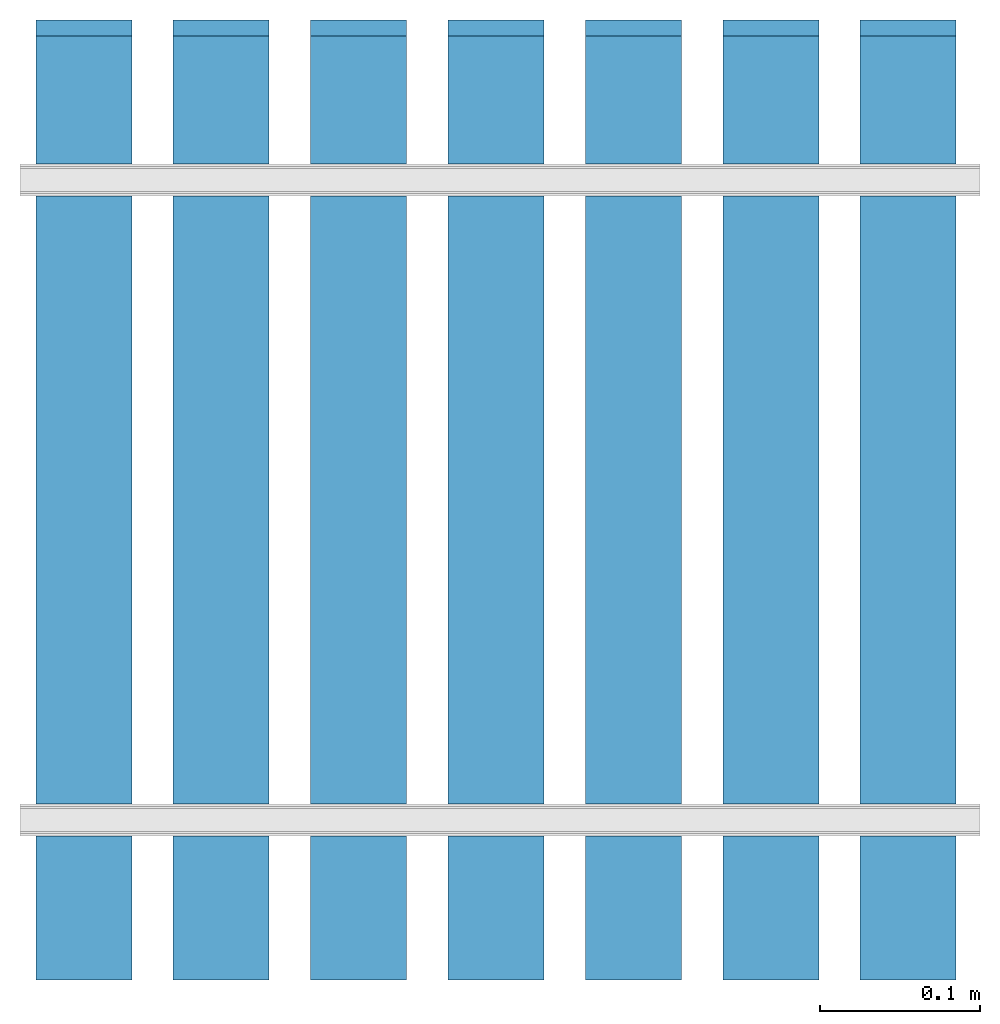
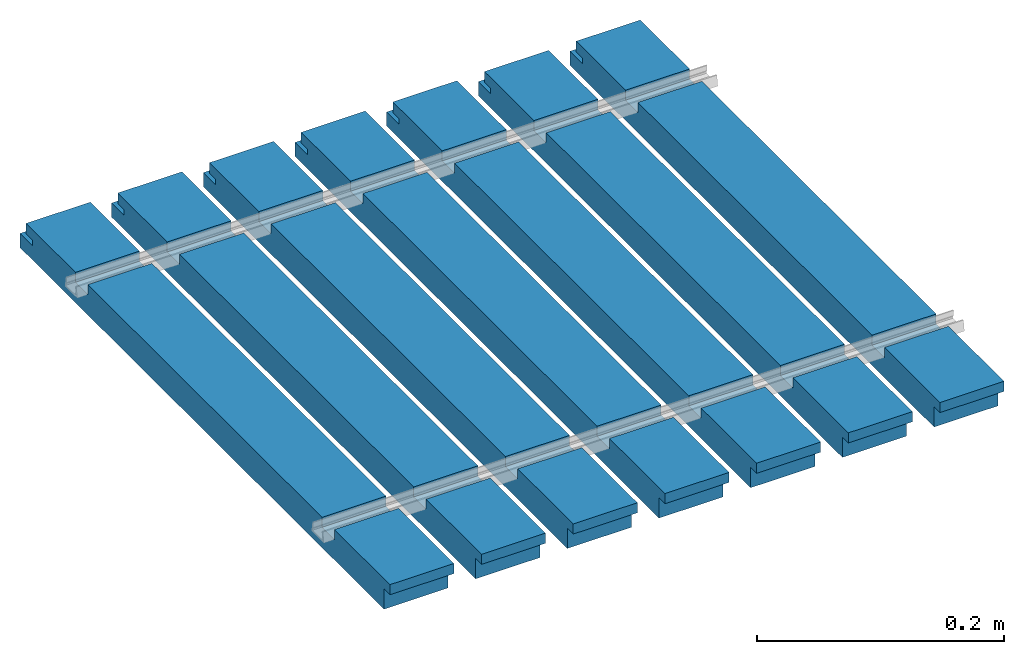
# One storey, part 2 of 2: 7 walls.
"""IFC2X3 building model written with IfcOpenShell, lengths in millimetres."""

from ifc_helpers import new_model, entity, si_unit, converted_unit, money_unit, direction, frame, origin_with_axes, place, context, subcontext, project, spatial, polyline, outline, extrude, boolean, faceted_brep, material, layer, layer_set, layer_usage, type_object, element, save


model = new_model("IFC2X3")

# Units and contexts
model_context = context("Model", 3, precision=1e-05, world=origin_with_axes(), true_north=direction((0.0, 1.0)))
body_context = subcontext(model_context, "Body", "Model", "MODEL_VIEW")
ifc_project = project(units=[si_unit("LENGTHUNIT", "METRE", prefix="MILLI"), si_unit("AREAUNIT", "SQUARE_METRE"), si_unit("VOLUMEUNIT", "CUBIC_METRE"), converted_unit("PLANEANGLEUNIT", "DEGREE", entity("IfcPlaneAngleMeasure", 0.0174532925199), si_unit("PLANEANGLEUNIT", "RADIAN"), dimensions=[0, 0, 0, 0, 0, 0, 0]), si_unit("SOLIDANGLEUNIT", "STERADIAN"), money_unit("AUD"), si_unit("TIMEUNIT", "SECOND"), si_unit("MASSUNIT", "GRAM"), si_unit("THERMODYNAMICTEMPERATUREUNIT", "DEGREE_CELSIUS"), si_unit("LUMINOUSINTENSITYUNIT", "LUMEN")], contexts=[model_context])

# Site, building, storey
site_placement = place(None, origin_with_axes())
site = spatial("IfcSite", under=ifc_project, at=site_placement, Name="Site", CompositionType="ELEMENT")
building_placement = place(site_placement, origin_with_axes())
building = spatial("IfcBuilding", under=site, at=building_placement, Name="Building", CompositionType="ELEMENT")
storey_placement = place(building_placement, origin_with_axes())
storey = spatial("IfcBuildingStorey", under=building, at=storey_placement, Name="GROUND", CompositionType="ELEMENT", Elevation=0.0)

# Walls
ifc_material = material(Name="Timber")
ifc_layer = layer(ifc_material, 60.0, ventilated="UNKNOWN")
ifc_layer_set = layer_set([ifc_layer], Name="Timber 60")
ifc_layer_usage_1 = layer_usage(ifc_layer_set, "AXIS2", "POSITIVE", 0.0)
wall_type = type_object("IfcWallType", Name="Timber 60", PredefinedType="NOTDEFINED")
wall_1_placement = place(storey_placement, frame((72.41, 0.0, 0.0), z_axis=(0.0, 0.0, 1.0), x_axis=(0.0, 1.0, 0.0)))
element("IfcWallStandardCase", 1, at=wall_1_placement, inside=storey, type_object=wall_type, material=ifc_layer_usage_1, Name="WALL-01", context=body_context, shape_type="CSG", body=[
    boolean("DIFFERENCE", boolean("DIFFERENCE", boolean("DIFFERENCE", boolean("DIFFERENCE", extrude(outline(polyline([(0.0, 0.0), (600.0, 0.0), (600.0, 60.0), (0.0, 60.0), (0.0, 0.0)])), origin_with_axes(), (0.0, 0.0, 1.0), 30.0), faceted_brep([(9.5, 0.0, 20.0), (0.0, 0.0, 20.0), (0.0, 0.0, 0.0), (9.5, 0.0, 0.0), (9.5, 60.0, 20.0), (0.0, 60.0, 20.0), (0.0, 60.0, 0.0), (9.5, 60.0, 0.0)], [[[0, 1, 2, 3]], [[1, 0, 4, 5]], [[1, 5, 6, 2]], [[7, 3, 2, 6]], [[0, 3, 7, 4]], [[4, 7, 6, 5]]])), faceted_brep([(90.0, 0.0, 20.0), (110.0, 0.0, 20.0), (110.0, 0.0, 30.0), (90.0, 0.0, 30.0), (90.0, 60.0, 20.0), (110.0, 60.0, 20.0), (110.0, 60.0, 30.0), (90.0, 60.0, 30.0)], [[[0, 1, 2, 3]], [[1, 0, 4, 5]], [[6, 2, 1, 5]], [[7, 3, 2, 6]], [[0, 3, 7, 4]], [[4, 7, 6, 5]]])), faceted_brep([(490.0, 0.0, 20.0), (510.0, 0.0, 20.0), (510.0, 0.0, 30.0), (490.0, 0.0, 30.0), (490.0, 60.0, 20.0), (510.0, 60.0, 20.0), (510.0, 60.0, 30.0), (490.0, 60.0, 30.0)], [[[0, 1, 2, 3]], [[1, 0, 4, 5]], [[6, 2, 1, 5]], [[7, 3, 2, 6]], [[0, 3, 7, 4]], [[4, 7, 6, 5]]])), faceted_brep([(580.0, 0.0, 19.5), (580.0, 0.0, 14.0), (600.0, 0.0, 14.0), (600.0, 0.0, 30.0), (590.0, 0.0, 30.0), (590.0, 0.0, 19.5), (580.0, 60.0, 19.5), (580.0, 60.0, 14.0), (600.0, 60.0, 14.0), (600.0, 60.0, 30.0), (590.0, 60.0, 30.0), (590.0, 60.0, 19.5)], [[[0, 1, 2, 3, 4, 5]], [[1, 0, 6, 7]], [[8, 2, 1, 7]], [[2, 8, 9, 3]], [[10, 4, 3, 9]], [[5, 4, 10, 11]], [[0, 5, 11, 6]], [[11, 10, 9, 8, 7, 6]]])),
])
ifc_layer_usage_2 = layer_usage(ifc_layer_set, "AXIS2", "POSITIVE", 0.0)
wall_2_placement = place(storey_placement, frame((158.273333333, 0.0, 0.0), z_axis=(0.0, 0.0, 1.0), x_axis=(0.0, 1.0, 0.0)))
element("IfcWallStandardCase", 2, at=wall_2_placement, inside=storey, type_object=wall_type, material=ifc_layer_usage_2, Name="WALL-01", context=body_context, shape_type="CSG", body=[
    boolean("DIFFERENCE", boolean("DIFFERENCE", boolean("DIFFERENCE", boolean("DIFFERENCE", extrude(outline(polyline([(0.0, 0.0), (600.0, 0.0), (600.0, 60.0), (0.0, 60.0), (0.0, 0.0)])), origin_with_axes(), (0.0, 0.0, 1.0), 30.0), faceted_brep([(9.5, 0.0, 20.0), (0.0, 0.0, 20.0), (0.0, 0.0, 0.0), (9.5, 0.0, 0.0), (9.5, 60.0, 20.0), (0.0, 60.0, 20.0), (0.0, 60.0, 0.0), (9.5, 60.0, 0.0)], [[[0, 1, 2, 3]], [[1, 0, 4, 5]], [[1, 5, 6, 2]], [[7, 3, 2, 6]], [[0, 3, 7, 4]], [[4, 7, 6, 5]]])), faceted_brep([(90.0, 0.0, 20.0), (110.0, 0.0, 20.0), (110.0, 0.0, 30.0), (90.0, 0.0, 30.0), (90.0, 60.0, 20.0), (110.0, 60.0, 20.0), (110.0, 60.0, 30.0), (90.0, 60.0, 30.0)], [[[0, 1, 2, 3]], [[1, 0, 4, 5]], [[6, 2, 1, 5]], [[7, 3, 2, 6]], [[0, 3, 7, 4]], [[4, 7, 6, 5]]])), faceted_brep([(490.0, 0.0, 20.0), (510.0, 0.0, 20.0), (510.0, 0.0, 30.0), (490.0, 0.0, 30.0), (490.0, 60.0, 20.0), (510.0, 60.0, 20.0), (510.0, 60.0, 30.0), (490.0, 60.0, 30.0)], [[[0, 1, 2, 3]], [[1, 0, 4, 5]], [[6, 2, 1, 5]], [[7, 3, 2, 6]], [[0, 3, 7, 4]], [[4, 7, 6, 5]]])), faceted_brep([(580.0, 0.0, 19.5), (580.0, 0.0, 14.0), (600.0, 0.0, 14.0), (600.0, 0.0, 30.0), (590.0, 0.0, 30.0), (590.0, 0.0, 19.5), (580.0, 60.0, 19.5), (580.0, 60.0, 14.0), (600.0, 60.0, 14.0), (600.0, 60.0, 30.0), (590.0, 60.0, 30.0), (590.0, 60.0, 19.5)], [[[0, 1, 2, 3, 4, 5]], [[1, 0, 6, 7]], [[8, 2, 1, 7]], [[2, 8, 9, 3]], [[10, 4, 3, 9]], [[5, 4, 10, 11]], [[0, 5, 11, 6]], [[11, 10, 9, 8, 7, 6]]])),
])
ifc_layer_usage_3 = layer_usage(ifc_layer_set, "AXIS2", "POSITIVE", 0.0)
wall_3_placement = place(storey_placement, frame((587.59, 0.0, 0.0), z_axis=(0.0, 0.0, 1.0), x_axis=(0.0, 1.0, 0.0)))
element("IfcWallStandardCase", 3, at=wall_3_placement, inside=storey, type_object=wall_type, material=ifc_layer_usage_3, Name="WALL-01", context=body_context, shape_type="CSG", body=[
    boolean("DIFFERENCE", boolean("DIFFERENCE", boolean("DIFFERENCE", boolean("DIFFERENCE", extrude(outline(polyline([(0.0, 0.0), (600.0, 0.0), (600.0, 60.0), (0.0, 60.0), (0.0, 0.0)])), origin_with_axes(), (0.0, 0.0, 1.0), 30.0), faceted_brep([(9.5, 0.0, 20.0), (0.0, 0.0, 20.0), (0.0, 0.0, 0.0), (9.5, 0.0, 0.0), (9.5, 60.0, 20.0), (0.0, 60.0, 20.0), (0.0, 60.0, 0.0), (9.5, 60.0, 0.0)], [[[0, 1, 2, 3]], [[1, 0, 4, 5]], [[1, 5, 6, 2]], [[7, 3, 2, 6]], [[0, 3, 7, 4]], [[4, 7, 6, 5]]])), faceted_brep([(90.0, 0.0, 20.0), (110.0, 0.0, 20.0), (110.0, 0.0, 30.0), (90.0, 0.0, 30.0), (90.0, 60.0, 20.0), (110.0, 60.0, 20.0), (110.0, 60.0, 30.0), (90.0, 60.0, 30.0)], [[[0, 1, 2, 3]], [[1, 0, 4, 5]], [[6, 2, 1, 5]], [[7, 3, 2, 6]], [[0, 3, 7, 4]], [[4, 7, 6, 5]]])), faceted_brep([(490.0, 0.0, 20.0), (510.0, 0.0, 20.0), (510.0, 0.0, 30.0), (490.0, 0.0, 30.0), (490.0, 60.0, 20.0), (510.0, 60.0, 20.0), (510.0, 60.0, 30.0), (490.0, 60.0, 30.0)], [[[0, 1, 2, 3]], [[1, 0, 4, 5]], [[6, 2, 1, 5]], [[7, 3, 2, 6]], [[0, 3, 7, 4]], [[4, 7, 6, 5]]])), faceted_brep([(580.0, 0.0, 19.5), (580.0, 0.0, 14.0), (600.0, 0.0, 14.0), (600.0, 0.0, 30.0), (590.0, 0.0, 30.0), (590.0, 0.0, 19.5), (580.0, 60.0, 19.5), (580.0, 60.0, 14.0), (600.0, 60.0, 14.0), (600.0, 60.0, 30.0), (590.0, 60.0, 30.0), (590.0, 60.0, 19.5)], [[[0, 1, 2, 3, 4, 5]], [[1, 0, 6, 7]], [[8, 2, 1, 7]], [[2, 8, 9, 3]], [[10, 4, 3, 9]], [[5, 4, 10, 11]], [[0, 5, 11, 6]], [[11, 10, 9, 8, 7, 6]]])),
])
ifc_layer_usage_4 = layer_usage(ifc_layer_set, "AXIS2", "POSITIVE", 0.0)
wall_4_placement = place(storey_placement, frame((501.726666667, 0.0, 0.0), z_axis=(0.0, 0.0, 1.0), x_axis=(0.0, 1.0, 0.0)))
element("IfcWallStandardCase", 4, at=wall_4_placement, inside=storey, type_object=wall_type, material=ifc_layer_usage_4, Name="WALL-01", context=body_context, shape_type="CSG", body=[
    boolean("DIFFERENCE", boolean("DIFFERENCE", boolean("DIFFERENCE", boolean("DIFFERENCE", extrude(outline(polyline([(0.0, 0.0), (600.0, 0.0), (600.0, 60.0), (0.0, 60.0), (0.0, 0.0)])), origin_with_axes(), (0.0, 0.0, 1.0), 30.0), faceted_brep([(9.5, 0.0, 20.0), (0.0, 0.0, 20.0), (0.0, 0.0, 0.0), (9.5, 0.0, 0.0), (9.5, 60.0, 20.0), (0.0, 60.0, 20.0), (0.0, 60.0, 0.0), (9.5, 60.0, 0.0)], [[[0, 1, 2, 3]], [[1, 0, 4, 5]], [[1, 5, 6, 2]], [[7, 3, 2, 6]], [[0, 3, 7, 4]], [[4, 7, 6, 5]]])), faceted_brep([(90.0, 0.0, 20.0), (110.0, 0.0, 20.0), (110.0, 0.0, 30.0), (90.0, 0.0, 30.0), (90.0, 60.0, 20.0), (110.0, 60.0, 20.0), (110.0, 60.0, 30.0), (90.0, 60.0, 30.0)], [[[0, 1, 2, 3]], [[1, 0, 4, 5]], [[6, 2, 1, 5]], [[7, 3, 2, 6]], [[0, 3, 7, 4]], [[4, 7, 6, 5]]])), faceted_brep([(490.0, 0.0, 20.0), (510.0, 0.0, 20.0), (510.0, 0.0, 30.0), (490.0, 0.0, 30.0), (490.0, 60.0, 20.0), (510.0, 60.0, 20.0), (510.0, 60.0, 30.0), (490.0, 60.0, 30.0)], [[[0, 1, 2, 3]], [[1, 0, 4, 5]], [[6, 2, 1, 5]], [[7, 3, 2, 6]], [[0, 3, 7, 4]], [[4, 7, 6, 5]]])), faceted_brep([(580.0, 0.0, 19.5), (580.0, 0.0, 14.0), (600.0, 0.0, 14.0), (600.0, 0.0, 30.0), (590.0, 0.0, 30.0), (590.0, 0.0, 19.5), (580.0, 60.0, 19.5), (580.0, 60.0, 14.0), (600.0, 60.0, 14.0), (600.0, 60.0, 30.0), (590.0, 60.0, 30.0), (590.0, 60.0, 19.5)], [[[0, 1, 2, 3, 4, 5]], [[1, 0, 6, 7]], [[8, 2, 1, 7]], [[2, 8, 9, 3]], [[10, 4, 3, 9]], [[5, 4, 10, 11]], [[0, 5, 11, 6]], [[11, 10, 9, 8, 7, 6]]])),
])
ifc_layer_usage_5 = layer_usage(ifc_layer_set, "AXIS2", "POSITIVE", 0.0)
wall_5_placement = place(storey_placement, frame((415.863333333, 0.0, 0.0), z_axis=(0.0, 0.0, 1.0), x_axis=(0.0, 1.0, 0.0)))
element("IfcWallStandardCase", 5, at=wall_5_placement, inside=storey, type_object=wall_type, material=ifc_layer_usage_5, Name="WALL-01", context=body_context, shape_type="CSG", body=[
    boolean("DIFFERENCE", boolean("DIFFERENCE", boolean("DIFFERENCE", boolean("DIFFERENCE", extrude(outline(polyline([(0.0, 0.0), (600.0, 0.0), (600.0, 60.0), (0.0, 60.0), (0.0, 0.0)])), origin_with_axes(), (0.0, 0.0, 1.0), 30.0), faceted_brep([(9.5, 0.0, 20.0), (0.0, 0.0, 20.0), (0.0, 0.0, 0.0), (9.5, 0.0, 0.0), (9.5, 60.0, 20.0), (0.0, 60.0, 20.0), (0.0, 60.0, 0.0), (9.5, 60.0, 0.0)], [[[0, 1, 2, 3]], [[1, 0, 4, 5]], [[1, 5, 6, 2]], [[7, 3, 2, 6]], [[0, 3, 7, 4]], [[4, 7, 6, 5]]])), faceted_brep([(90.0, 0.0, 20.0), (110.0, 0.0, 20.0), (110.0, 0.0, 30.0), (90.0, 0.0, 30.0), (90.0, 60.0, 20.0), (110.0, 60.0, 20.0), (110.0, 60.0, 30.0), (90.0, 60.0, 30.0)], [[[0, 1, 2, 3]], [[1, 0, 4, 5]], [[6, 2, 1, 5]], [[7, 3, 2, 6]], [[0, 3, 7, 4]], [[4, 7, 6, 5]]])), faceted_brep([(490.0, 0.0, 20.0), (510.0, 0.0, 20.0), (510.0, 0.0, 30.0), (490.0, 0.0, 30.0), (490.0, 60.0, 20.0), (510.0, 60.0, 20.0), (510.0, 60.0, 30.0), (490.0, 60.0, 30.0)], [[[0, 1, 2, 3]], [[1, 0, 4, 5]], [[6, 2, 1, 5]], [[7, 3, 2, 6]], [[0, 3, 7, 4]], [[4, 7, 6, 5]]])), faceted_brep([(580.0, 0.0, 19.5), (580.0, 0.0, 14.0), (600.0, 0.0, 14.0), (600.0, 0.0, 30.0), (590.0, 0.0, 30.0), (590.0, 0.0, 19.5), (580.0, 60.0, 19.5), (580.0, 60.0, 14.0), (600.0, 60.0, 14.0), (600.0, 60.0, 30.0), (590.0, 60.0, 30.0), (590.0, 60.0, 19.5)], [[[0, 1, 2, 3, 4, 5]], [[1, 0, 6, 7]], [[8, 2, 1, 7]], [[2, 8, 9, 3]], [[10, 4, 3, 9]], [[5, 4, 10, 11]], [[0, 5, 11, 6]], [[11, 10, 9, 8, 7, 6]]])),
])
ifc_layer_usage_6 = layer_usage(ifc_layer_set, "AXIS2", "POSITIVE", 0.0)
wall_6_placement = place(storey_placement, frame((330.0, 0.0, 0.0), z_axis=(0.0, 0.0, 1.0), x_axis=(0.0, 1.0, 0.0)))
element("IfcWallStandardCase", 6, at=wall_6_placement, inside=storey, type_object=wall_type, material=ifc_layer_usage_6, Name="WALL-01", context=body_context, shape_type="CSG", body=[
    boolean("DIFFERENCE", boolean("DIFFERENCE", boolean("DIFFERENCE", boolean("DIFFERENCE", extrude(outline(polyline([(0.0, 0.0), (600.0, 0.0), (600.0, 60.0), (0.0, 60.0), (0.0, 0.0)])), origin_with_axes(), (0.0, 0.0, 1.0), 30.0), faceted_brep([(9.5, 0.0, 20.0), (0.0, 0.0, 20.0), (0.0, 0.0, 0.0), (9.5, 0.0, 0.0), (9.5, 60.0, 20.0), (0.0, 60.0, 20.0), (0.0, 60.0, 0.0), (9.5, 60.0, 0.0)], [[[0, 1, 2, 3]], [[1, 0, 4, 5]], [[1, 5, 6, 2]], [[7, 3, 2, 6]], [[0, 3, 7, 4]], [[4, 7, 6, 5]]])), faceted_brep([(90.0, 0.0, 20.0), (110.0, 0.0, 20.0), (110.0, 0.0, 30.0), (90.0, 0.0, 30.0), (90.0, 60.0, 20.0), (110.0, 60.0, 20.0), (110.0, 60.0, 30.0), (90.0, 60.0, 30.0)], [[[0, 1, 2, 3]], [[1, 0, 4, 5]], [[6, 2, 1, 5]], [[7, 3, 2, 6]], [[0, 3, 7, 4]], [[4, 7, 6, 5]]])), faceted_brep([(490.0, 0.0, 20.0), (510.0, 0.0, 20.0), (510.0, 0.0, 30.0), (490.0, 0.0, 30.0), (490.0, 60.0, 20.0), (510.0, 60.0, 20.0), (510.0, 60.0, 30.0), (490.0, 60.0, 30.0)], [[[0, 1, 2, 3]], [[1, 0, 4, 5]], [[6, 2, 1, 5]], [[7, 3, 2, 6]], [[0, 3, 7, 4]], [[4, 7, 6, 5]]])), faceted_brep([(580.0, 0.0, 19.5), (580.0, 0.0, 14.0), (600.0, 0.0, 14.0), (600.0, 0.0, 30.0), (590.0, 0.0, 30.0), (590.0, 0.0, 19.5), (580.0, 60.0, 19.5), (580.0, 60.0, 14.0), (600.0, 60.0, 14.0), (600.0, 60.0, 30.0), (590.0, 60.0, 30.0), (590.0, 60.0, 19.5)], [[[0, 1, 2, 3, 4, 5]], [[1, 0, 6, 7]], [[8, 2, 1, 7]], [[2, 8, 9, 3]], [[10, 4, 3, 9]], [[5, 4, 10, 11]], [[0, 5, 11, 6]], [[11, 10, 9, 8, 7, 6]]])),
])
ifc_layer_usage_7 = layer_usage(ifc_layer_set, "AXIS2", "POSITIVE", 0.0)
wall_7_placement = place(storey_placement, frame((244.136666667, 0.0, 0.0), z_axis=(0.0, 0.0, 1.0), x_axis=(0.0, 1.0, 0.0)))
element("IfcWallStandardCase", 7, at=wall_7_placement, inside=storey, type_object=wall_type, material=ifc_layer_usage_7, Name="WALL-01", context=body_context, shape_type="CSG", body=[
    boolean("DIFFERENCE", boolean("DIFFERENCE", boolean("DIFFERENCE", boolean("DIFFERENCE", extrude(outline(polyline([(0.0, 0.0), (600.0, 0.0), (600.0, 60.0), (0.0, 60.0), (0.0, 0.0)])), origin_with_axes(), (0.0, 0.0, 1.0), 30.0), faceted_brep([(9.5, 0.0, 20.0), (0.0, 0.0, 20.0), (0.0, 0.0, 0.0), (9.5, 0.0, 0.0), (9.5, 60.0, 20.0), (0.0, 60.0, 20.0), (0.0, 60.0, 0.0), (9.5, 60.0, 0.0)], [[[0, 1, 2, 3]], [[1, 0, 4, 5]], [[1, 5, 6, 2]], [[7, 3, 2, 6]], [[0, 3, 7, 4]], [[4, 7, 6, 5]]])), faceted_brep([(90.0, 0.0, 20.0), (110.0, 0.0, 20.0), (110.0, 0.0, 30.0), (90.0, 0.0, 30.0), (90.0, 60.0, 20.0), (110.0, 60.0, 20.0), (110.0, 60.0, 30.0), (90.0, 60.0, 30.0)], [[[0, 1, 2, 3]], [[1, 0, 4, 5]], [[6, 2, 1, 5]], [[7, 3, 2, 6]], [[0, 3, 7, 4]], [[4, 7, 6, 5]]])), faceted_brep([(490.0, 0.0, 20.0), (510.0, 0.0, 20.0), (510.0, 0.0, 30.0), (490.0, 0.0, 30.0), (490.0, 60.0, 20.0), (510.0, 60.0, 20.0), (510.0, 60.0, 30.0), (490.0, 60.0, 30.0)], [[[0, 1, 2, 3]], [[1, 0, 4, 5]], [[6, 2, 1, 5]], [[7, 3, 2, 6]], [[0, 3, 7, 4]], [[4, 7, 6, 5]]])), faceted_brep([(580.0, 0.0, 19.5), (580.0, 0.0, 14.0), (600.0, 0.0, 14.0), (600.0, 0.0, 30.0), (590.0, 0.0, 30.0), (590.0, 0.0, 19.5), (580.0, 60.0, 19.5), (580.0, 60.0, 14.0), (600.0, 60.0, 14.0), (600.0, 60.0, 30.0), (590.0, 60.0, 30.0), (590.0, 60.0, 19.5)], [[[0, 1, 2, 3, 4, 5]], [[1, 0, 6, 7]], [[8, 2, 1, 7]], [[2, 8, 9, 3]], [[10, 4, 3, 9]], [[5, 4, 10, 11]], [[0, 5, 11, 6]], [[11, 10, 9, 8, 7, 6]]])),
])

save(model, "model.ifc")
